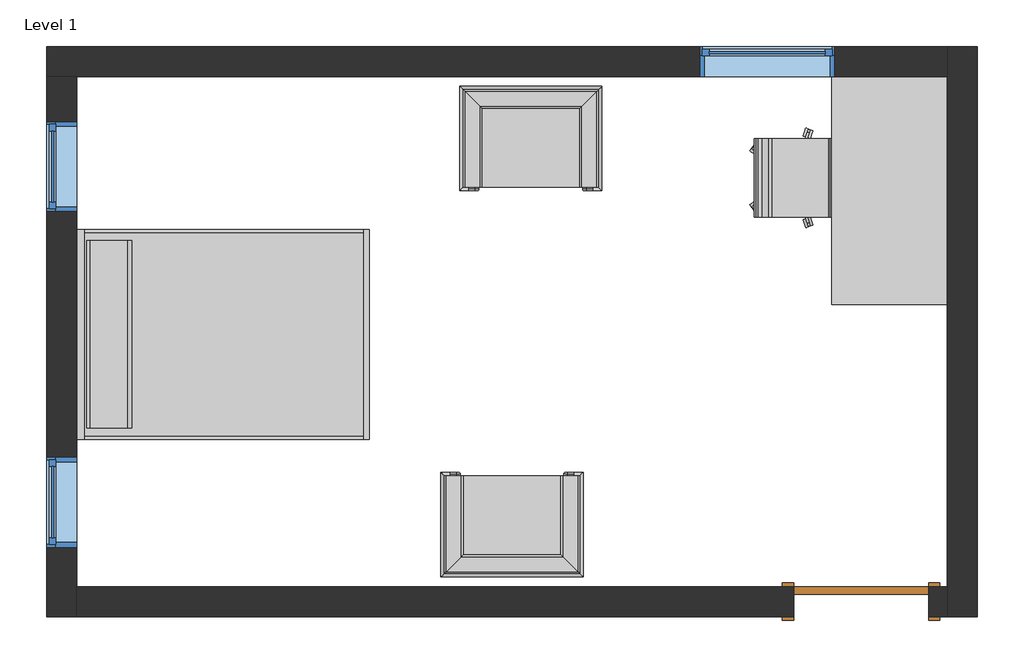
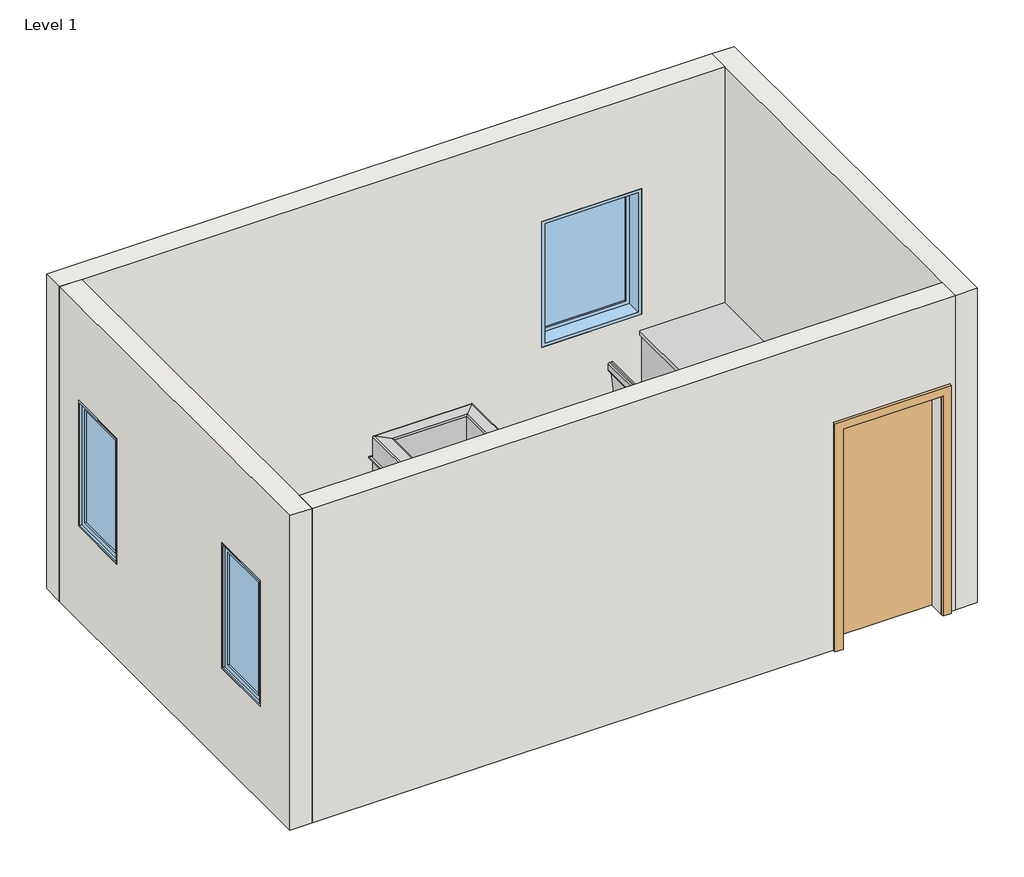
# One storey: 5 furniture elements, 4 walls, 3 windows, 1 door.
"""IFC4 building model written with IfcOpenShell, lengths in millimetres."""

from ifc_helpers import new_model, si_unit, frame, origin, place, context, project, spatial, polyline, outline, extrude, faceted_brep, transform, mapped, element, save
from components import door_54dd4da4, furniture_096e7f55, chair_corbu_chair_corbu_2764bdef, chair_corbu_chair_corbu_95fad79a, chair_task_chair_task_acf55384, furniture_072f6425, window_80bd9af0, window_9110666e, window_e2841890

model = new_model("IFC4")

# Units and contexts
model_context = context("Model", 3, world=origin())
ifc_project = project(units=[si_unit("LENGTHUNIT", "METRE", prefix="MILLI")], contexts=[model_context])

# Site, building, storey
site = spatial("IfcSite", under=ifc_project)
building = spatial("IfcBuilding", under=site)
storey = spatial("IfcBuildingStorey", under=building, Name="Level 1", Elevation=0.0)

# Door
placement = place(None, origin())
door_shape = door_54dd4da4(model_context)
element("IfcDoor", 1, ObjectType="Single-Flush : 36\" x 84\"", at=placement, inside=storey, context=model_context, shape_type="MappedRepresentation", body=[
    mapped(door_shape, transform((-3553.1010445, 7369.6879665, 0.0), x_axis=(1.0, 0.0, 0.0), y_axis=(0.0, 1.0, 0.0), z_axis=(0.0, 0.0, 1.0))),
])

# Furniture
furniture_shape = furniture_096e7f55(model_context)
element("IfcFurniture", 2, ObjectType="Bed-Shaker : Double 56\" x 78\"", at=placement, inside=storey, context=model_context, shape_type="MappedRepresentation", body=[
    mapped(furniture_shape, transform((-8861.7010445, 9198.4879665, 0.0), x_axis=(0.0, 1.0, 0.0), y_axis=(-1.0, 0.0, 0.0), z_axis=(0.0, 0.0, 1.0))),
])
chair_corbu_chair_corbu_shape = chair_corbu_chair_corbu_2764bdef(model_context)
element("IfcFurniture", 3, ObjectType="Chair-Corbu : Chair-Corbu", at=placement, inside=storey, context=model_context, shape_type="MappedRepresentation", body=[
    mapped(chair_corbu_chair_corbu_shape, transform((-6361.674815, 10039.8109173, 0.0), x_axis=(1.0, 0.0, 0.0), y_axis=(0.0, 1.0, 0.0), z_axis=(0.0, 0.0, 1.0))),
])
chair_corbu_chair_corbu_2_shape = chair_corbu_chair_corbu_95fad79a(model_context)
element("IfcFurniture", 4, ObjectType="Chair-Corbu : Chair-Corbu", at=placement, inside=storey, context=model_context, shape_type="MappedRepresentation", body=[
    mapped(chair_corbu_chair_corbu_2_shape, transform((-6488.674815, 8357.1650156, 0.0), x_axis=(1.0, 0.0, 0.0), y_axis=(0.0, 1.0, 0.0), z_axis=(0.0, 0.0, 1.0))),
])
chair_task_chair_task_shape = chair_task_chair_task_acf55384(model_context)
element("IfcFurniture", 5, ObjectType="Chair-Task : Chair-Task", at=placement, inside=storey, context=model_context, shape_type="MappedRepresentation", body=[
    mapped(chair_task_chair_task_shape, transform((-4029.2469461, 10380.8787861, 0.0), x_axis=(0.0, -1.0, 0.0), y_axis=(1.0, 0.0, 0.0), z_axis=(0.0, 0.0, 1.0))),
])
furniture_2_shape = furniture_072f6425(model_context)
element("IfcFurniture", 6, ObjectType="Desk : 60\" x 30\"", at=placement, inside=storey, context=model_context, shape_type="MappedRepresentation", body=[
    mapped(furniture_2_shape, transform((-3730.9010445, 10925.6879665, 0.0), x_axis=(0.0, -1.0, 0.0), y_axis=(1.0, 0.0, 0.0), z_axis=(0.0, 0.0, 1.0))),
])

# Walls
element("IfcWall", 7, ObjectType="Generic - 8\"", at=placement, inside=storey, context=model_context, shape_type="Brep", body=[
    faceted_brep([(-9064.9010445, 10925.6879665, 0.0), (-8861.7010445, 10925.6879665, 0.0), (-2968.9010445, 10925.6879665, 0.0), (-2968.9010445, 10925.6879665, 3048.0), (-8861.7010445, 10925.6879665, 3048.0), (-9064.9010445, 10925.6879665, 3048.0), (-3730.9010445, 10925.6879665, 2133.6), (-3730.9010445, 10925.6879665, 914.4), (-4645.3010445, 10925.6879665, 914.4), (-4645.3010445, 10925.6879665, 2133.6), (-9064.9010445, 11128.8879665, 0.0), (-9064.9010445, 11128.8879665, 3048.0), (-2968.9010445, 11128.8879665, 3048.0), (-2968.9010445, 11128.8879665, 0.0), (-3730.9010445, 11128.8879665, 2133.6), (-4645.3010445, 11128.8879665, 2133.6), (-4645.3010445, 11128.8879665, 914.4), (-3730.9010445, 11128.8879665, 914.4)], [[[0, 1, 2, 3, 4, 5], [6, 7, 8, 9]], [[10, 11, 12, 13], [14, 15, 16, 17]], [[2, 1, 0, 10, 13]], [[5, 4, 3, 12, 11]], [[0, 5, 11, 10]], [[3, 2, 13, 12]], [[7, 6, 14, 17]], [[8, 7, 17, 16]], [[9, 8, 16, 15]], [[6, 9, 15, 14]]]),
])
element("IfcWall", 8, ObjectType="Generic - 8\"", at=placement, inside=storey, context=model_context, shape_type="Brep", body=[
    faceted_brep([(-8861.7010445, 7268.0879665, 0.0), (-8861.7010445, 7471.2879665, 0.0), (-8861.7010445, 10925.6879665, 0.0), (-8861.7010445, 10925.6879665, 3048.0), (-8861.7010445, 7471.2879665, 3048.0), (-8861.7010445, 7268.0879665, 3048.0), (-8861.7010445, 10620.8879665, 2133.6), (-8861.7010445, 10620.8879665, 914.4), (-8861.7010445, 10011.2879665, 914.4), (-8861.7010445, 10011.2879665, 2133.6), (-8861.7010445, 7737.9879665, 2133.6), (-8861.7010445, 8347.5879665, 2133.6), (-8861.7010445, 8347.5879665, 914.4), (-8861.7010445, 7737.9879665, 914.4), (-9064.9010445, 7268.0879665, 0.0), (-9064.9010445, 7268.0879665, 3048.0), (-9064.9010445, 10925.6879665, 3048.0), (-9064.9010445, 10925.6879665, 0.0), (-9064.9010445, 10620.8879665, 2133.6), (-9064.9010445, 10011.2879665, 2133.6), (-9064.9010445, 10011.2879665, 914.4), (-9064.9010445, 10620.8879665, 914.4), (-9064.9010445, 7737.9879665, 2133.6), (-9064.9010445, 7737.9879665, 914.4), (-9064.9010445, 8347.5879665, 914.4), (-9064.9010445, 8347.5879665, 2133.6)], [[[0, 1, 2, 3, 4, 5], [6, 7, 8, 9], [10, 11, 12, 13]], [[14, 15, 16, 17], [18, 19, 20, 21], [22, 23, 24, 25]], [[2, 1, 0, 14, 17]], [[5, 4, 3, 16, 15]], [[0, 5, 15, 14]], [[3, 2, 17, 16]], [[7, 6, 18, 21]], [[8, 7, 21, 20]], [[9, 8, 20, 19]], [[6, 9, 19, 18]], [[23, 22, 10, 13]], [[24, 23, 13, 12]], [[25, 24, 12, 11]], [[22, 25, 11, 10]]]),
])
element("IfcWall", 9, ObjectType="Generic - 8\"", at=placement, inside=storey, context=model_context, shape_type="SweptSolid", body=[
    extrude(outline(polyline([(2133.6, -3095.9010445), (0.0, -3095.9010445), (0.0, -2968.9010445), (3048.0, -2968.9010445), (3048.0, -8861.7010445), (0.0, -8861.7010445), (0.0, -4010.3010445), (2133.6, -4010.3010445), (2133.6, -3095.9010445)])), frame((0.0, 7268.0879665, 0.0), z_axis=(0.0, 1.0, 0.0), x_axis=(0.0, 0.0, 1.0)), (0.0, 0.0, 1.0), 203.2),
])
element("IfcWall", 10, ObjectType="Generic - 8\"", at=placement, inside=storey, context=model_context, shape_type="Brep", body=[
    faceted_brep([(-2968.9010445, 11128.8879665, 0.0), (-2968.9010445, 10925.6879665, 0.0), (-2968.9010445, 7471.2879665, 0.0), (-2968.9010445, 7268.0879665, 0.0), (-2968.9010445, 7268.0879665, 3048.0), (-2968.9010445, 7471.2879665, 3048.0), (-2968.9010445, 10925.6879665, 3048.0), (-2968.9010445, 11128.8879665, 3048.0), (-2765.7010445, 11128.8879665, 0.0), (-2765.7010445, 11128.8879665, 3048.0), (-2765.7010445, 7268.0879665, 3048.0), (-2765.7010445, 7268.0879665, 0.0)], [[[0, 1, 2, 3, 4, 5, 6, 7]], [[8, 9, 10, 11]], [[3, 2, 1, 0, 8, 11]], [[7, 6, 5, 4, 10, 9]], [[0, 7, 9, 8]], [[4, 3, 11, 10]]]),
])

# Windows
window_shape = window_80bd9af0(model_context)
element("IfcWindow", 11, ObjectType="Fixed : 24\" x 48\"", at=placement, inside=storey, context=model_context, shape_type="MappedRepresentation", body=[
    mapped(window_shape, transform((-8963.3010445, 10354.1879665, 0.0), x_axis=(0.0, 1.0, 0.0), y_axis=(-1.0, 0.0, 0.0), z_axis=(0.0, 0.0, 1.0))),
])
window_2_shape = window_9110666e(model_context)
element("IfcWindow", 12, ObjectType="Fixed : 24\" x 48\"", at=placement, inside=storey, context=model_context, shape_type="MappedRepresentation", body=[
    mapped(window_2_shape, transform((-8963.3010445, 8004.6879665, 0.0), x_axis=(0.0, -1.0, 0.0), y_axis=(1.0, 0.0, 0.0), z_axis=(0.0, 0.0, 1.0))),
])
window_3_shape = window_e2841890(model_context)
element("IfcWindow", 13, ObjectType="Fixed : 36\" x 48\"", at=placement, inside=storey, context=model_context, shape_type="MappedRepresentation", body=[
    mapped(window_3_shape, transform((-4150.0010445, 11027.2879665, 0.0), x_axis=(1.0, 0.0, 0.0), y_axis=(0.0, 1.0, 0.0), z_axis=(0.0, 0.0, 1.0))),
])

save(model, "model.ifc")
